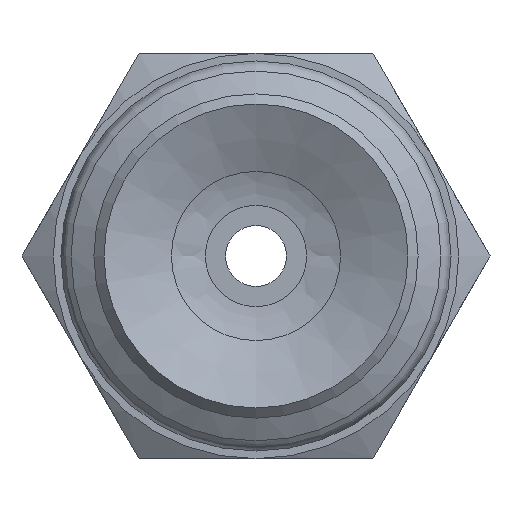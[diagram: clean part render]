
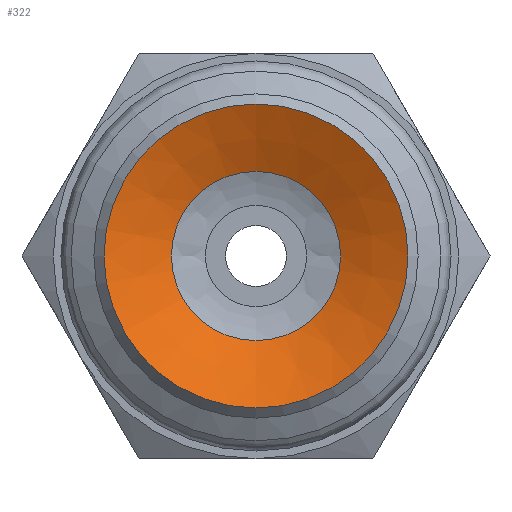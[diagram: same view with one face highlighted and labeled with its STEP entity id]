
A CAD part, front view. The second image highlights one B-rep face of the part: STEP entity #322.
In plain terms, the highlighted conical face has half-angle 64.998 degrees and reference radius 1.285 mm.
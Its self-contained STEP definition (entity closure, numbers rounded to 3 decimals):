
#322=ADVANCED_FACE('',(#472,#473),#474,.F.);
#472=FACE_BOUND('',#657,.T.);
#473=FACE_OUTER_BOUND('',#658,.T.);
#474=CONICAL_SURFACE('',#659,1.285,1.134);
#657=EDGE_LOOP('',(#956));
#658=EDGE_LOOP('',(#957));
#659=AXIS2_PLACEMENT_3D('',#958,#959,#960);
#956=ORIENTED_EDGE('',*,*,#1030,.T.);
#957=ORIENTED_EDGE('',*,*,#1019,.T.);
#958=CARTESIAN_POINT('',(0.0,0.8,0.0));
#959=DIRECTION('',(-0.0,-1.0,0.));
#960=DIRECTION('',(0.0,0.,-1.0));
#1019=EDGE_CURVE('',#1136,#1136,#1137,.T.);
#1030=EDGE_CURVE('',#1158,#1158,#1159,.T.);
#1136=VERTEX_POINT('',#1302);
#1137=CIRCLE('',#1303,3.);
#1158=VERTEX_POINT('',#1324);
#1159=CIRCLE('',#1325,1.67);
#1302=CARTESIAN_POINT('',(0.0,0.,-3.));
#1303=AXIS2_PLACEMENT_3D('',#1442,#1443,#1444);
#1324=CARTESIAN_POINT('',(0.0,0.62,-1.67));
#1325=AXIS2_PLACEMENT_3D('',#1475,#1476,#1477);
#1442=CARTESIAN_POINT('',(0.0,0.0,0.0));
#1443=DIRECTION('',(0.0,-1.0,0.));
#1444=DIRECTION('',(0.0,0.,-1.0));
#1475=CARTESIAN_POINT('',(0.0,0.62,0.0));
#1476=DIRECTION('',(0.0,1.0,0.));
#1477=DIRECTION('',(0.0,0.,-1.0));
